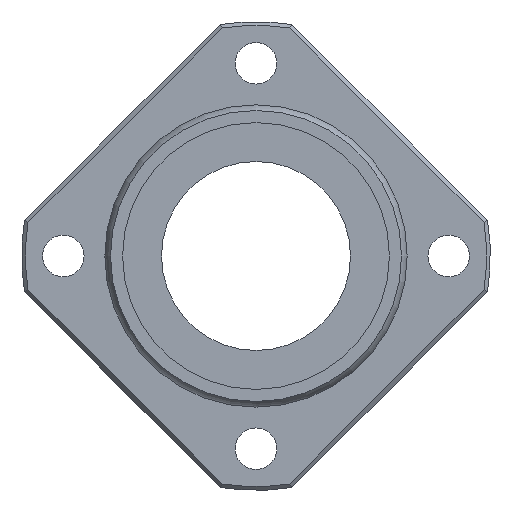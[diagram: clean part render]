
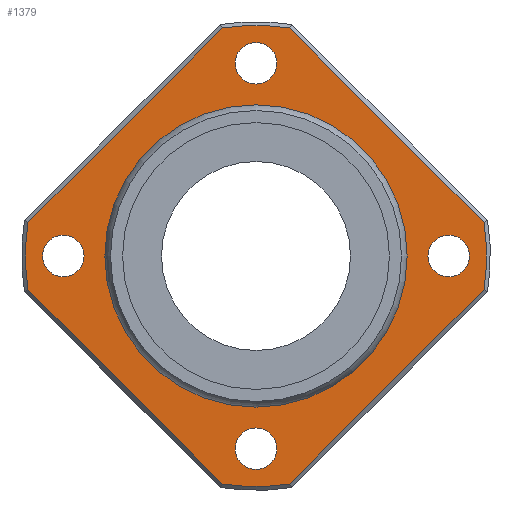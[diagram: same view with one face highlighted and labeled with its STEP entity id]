
A CAD part, left-side view. The second image highlights one B-rep face of the part: STEP entity #1379.
In plain terms, the highlighted planar face has unit normal (-1, 0, 0).
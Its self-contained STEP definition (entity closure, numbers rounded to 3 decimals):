
#955=CARTESIAN_POINT('',(-42.,30.169,4.479));
#956=VERTEX_POINT('',#955);
#964=CARTESIAN_POINT('',(-42.,4.479,30.169));
#965=VERTEX_POINT('',#964);
#966=CARTESIAN_POINT('',(-42.,30.169,4.479));
#967=DIRECTION('',(0.0,-0.707,0.707));
#968=VECTOR('',#967,36.332);
#969=LINE('',#966,#968);
#970=EDGE_CURVE('',#956,#965,#969,.T.);
#997=CARTESIAN_POINT('',(-42.,-4.479,30.169));
#998=VERTEX_POINT('',#997);
#999=CARTESIAN_POINT('',(-42.,0.0,0.0));
#1000=DIRECTION('',(1.0,0.0,0.0));
#1001=DIRECTION('',(0.0,0.0,1.0));
#1002=AXIS2_PLACEMENT_3D('',#999,#1000,#1001);
#1003=CIRCLE('',#1002,30.5);
#1004=EDGE_CURVE('',#965,#998,#1003,.T.);
#1030=CARTESIAN_POINT('',(-42.,-30.169,4.479));
#1031=VERTEX_POINT('',#1030);
#1032=CARTESIAN_POINT('',(-42.,-4.479,30.169));
#1033=DIRECTION('',(0.0,-0.707,-0.707));
#1034=VECTOR('',#1033,36.332);
#1035=LINE('',#1032,#1034);
#1036=EDGE_CURVE('',#998,#1031,#1035,.T.);
#1063=CARTESIAN_POINT('',(-42.,-30.169,-4.479));
#1064=VERTEX_POINT('',#1063);
#1065=CARTESIAN_POINT('',(-42.,0.0,0.0));
#1066=DIRECTION('',(1.0,0.0,0.0));
#1067=DIRECTION('',(0.0,0.0,1.0));
#1068=AXIS2_PLACEMENT_3D('',#1065,#1066,#1067);
#1069=CIRCLE('',#1068,30.5);
#1070=EDGE_CURVE('',#1031,#1064,#1069,.T.);
#1096=CARTESIAN_POINT('',(-42.,-4.479,-30.169));
#1097=VERTEX_POINT('',#1096);
#1098=CARTESIAN_POINT('',(-42.,-30.169,-4.479));
#1099=DIRECTION('',(0.0,0.707,-0.707));
#1100=VECTOR('',#1099,36.332);
#1101=LINE('',#1098,#1100);
#1102=EDGE_CURVE('',#1064,#1097,#1101,.T.);
#1129=CARTESIAN_POINT('',(-42.,4.479,-30.169));
#1130=VERTEX_POINT('',#1129);
#1131=CARTESIAN_POINT('',(-42.,0.0,0.0));
#1132=DIRECTION('',(1.0,0.0,0.0));
#1133=DIRECTION('',(0.0,0.0,-1.0));
#1134=AXIS2_PLACEMENT_3D('',#1131,#1132,#1133);
#1135=CIRCLE('',#1134,30.5);
#1136=EDGE_CURVE('',#1097,#1130,#1135,.T.);
#1162=CARTESIAN_POINT('',(-42.,30.169,-4.479));
#1163=VERTEX_POINT('',#1162);
#1164=CARTESIAN_POINT('',(-42.,4.479,-30.169));
#1165=DIRECTION('',(0.0,0.707,0.707));
#1166=VECTOR('',#1165,36.332);
#1167=LINE('',#1164,#1166);
#1168=EDGE_CURVE('',#1130,#1163,#1167,.T.);
#1193=CARTESIAN_POINT('',(-42.,0.0,0.0));
#1194=DIRECTION('',(1.0,0.0,0.0));
#1195=DIRECTION('',(0.0,0.0,1.0));
#1196=AXIS2_PLACEMENT_3D('',#1193,#1194,#1195);
#1197=CIRCLE('',#1196,30.5);
#1198=EDGE_CURVE('',#1163,#956,#1197,.T.);
#1309=CARTESIAN_POINT('',(-42.,0.0,25.282));
#1310=DIRECTION('',(-1.0,0.0,0.0));
#1311=DIRECTION('',(0.0,0.0,1.0));
#1312=AXIS2_PLACEMENT_3D('',#1309,#1310,#1311);
#1313=PLANE('',#1312);
#1314=ORIENTED_EDGE('',*,*,#970,.F.);
#1315=ORIENTED_EDGE('',*,*,#1198,.F.);
#1316=ORIENTED_EDGE('',*,*,#1168,.F.);
#1317=ORIENTED_EDGE('',*,*,#1136,.F.);
#1318=ORIENTED_EDGE('',*,*,#1102,.F.);
#1319=ORIENTED_EDGE('',*,*,#1070,.F.);
#1320=ORIENTED_EDGE('',*,*,#1036,.F.);
#1321=ORIENTED_EDGE('',*,*,#1004,.F.);
#1322=EDGE_LOOP('',(#1314,#1315,#1316,#1317,#1318,#1319,#1320,#1321));
#1323=FACE_OUTER_BOUND('',#1322,.T.);
#1324=CARTESIAN_POINT('',(-42.,0.0,19.564));
#1325=VERTEX_POINT('',#1324);
#1326=CARTESIAN_POINT('',(-42.,0.0,0.0));
#1327=DIRECTION('',(-1.0,0.0,0.0));
#1328=DIRECTION('',(0.0,0.0,1.0));
#1329=AXIS2_PLACEMENT_3D('',#1326,#1327,#1328);
#1330=CIRCLE('',#1329,19.564);
#1331=EDGE_CURVE('',#1325,#1325,#1330,.T.);
#1332=ORIENTED_EDGE('',*,*,#1331,.F.);
#1333=EDGE_LOOP('',(#1332));
#1334=FACE_BOUND('',#1333,.T.);
#1335=CARTESIAN_POINT('',(-42.,22.75,0.));
#1336=VERTEX_POINT('',#1335);
#1337=CARTESIAN_POINT('',(-42.,25.5,0.));
#1338=DIRECTION('',(1.0,0.0,0.0));
#1339=DIRECTION('',(0.0,1.0,0.0));
#1340=AXIS2_PLACEMENT_3D('',#1337,#1338,#1339);
#1341=CIRCLE('',#1340,2.75);
#1342=EDGE_CURVE('',#1336,#1336,#1341,.T.);
#1343=ORIENTED_EDGE('',*,*,#1342,.T.);
#1344=EDGE_LOOP('',(#1343));
#1345=FACE_BOUND('',#1344,.T.);
#1346=CARTESIAN_POINT('',(-42.,-28.25,0.));
#1347=VERTEX_POINT('',#1346);
#1348=CARTESIAN_POINT('',(-42.,-25.5,0.0));
#1349=DIRECTION('',(1.0,0.0,0.0));
#1350=DIRECTION('',(0.0,1.0,0.0));
#1351=AXIS2_PLACEMENT_3D('',#1348,#1349,#1350);
#1352=CIRCLE('',#1351,2.75);
#1353=EDGE_CURVE('',#1347,#1347,#1352,.T.);
#1354=ORIENTED_EDGE('',*,*,#1353,.T.);
#1355=EDGE_LOOP('',(#1354));
#1356=FACE_BOUND('',#1355,.T.);
#1357=CARTESIAN_POINT('',(-42.,-2.75,25.5));
#1358=VERTEX_POINT('',#1357);
#1359=CARTESIAN_POINT('',(-42.,0.,25.5));
#1360=DIRECTION('',(1.0,0.0,0.0));
#1361=DIRECTION('',(0.0,1.0,0.0));
#1362=AXIS2_PLACEMENT_3D('',#1359,#1360,#1361);
#1363=CIRCLE('',#1362,2.75);
#1364=EDGE_CURVE('',#1358,#1358,#1363,.T.);
#1365=ORIENTED_EDGE('',*,*,#1364,.T.);
#1366=EDGE_LOOP('',(#1365));
#1367=FACE_BOUND('',#1366,.T.);
#1368=CARTESIAN_POINT('',(-42.,-2.75,-25.5));
#1369=VERTEX_POINT('',#1368);
#1370=CARTESIAN_POINT('',(-42.,0.,-25.5));
#1371=DIRECTION('',(1.0,0.0,0.0));
#1372=DIRECTION('',(0.0,1.0,0.0));
#1373=AXIS2_PLACEMENT_3D('',#1370,#1371,#1372);
#1374=CIRCLE('',#1373,2.75);
#1375=EDGE_CURVE('',#1369,#1369,#1374,.T.);
#1376=ORIENTED_EDGE('',*,*,#1375,.T.);
#1377=EDGE_LOOP('',(#1376));
#1378=FACE_BOUND('',#1377,.T.);
#1379=ADVANCED_FACE('',(#1323,#1334,#1345,#1356,#1367,#1378),#1313,.T.);
